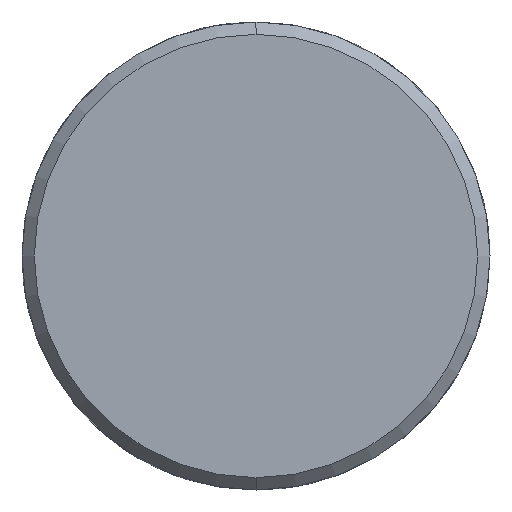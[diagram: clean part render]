
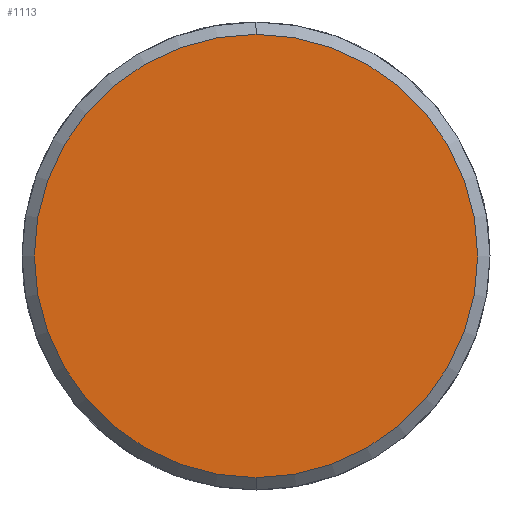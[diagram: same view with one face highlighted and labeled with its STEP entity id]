
A CAD part, left-side view. The second image highlights one B-rep face of the part: STEP entity #1113.
In plain terms, the highlighted planar face has unit normal (-1, 0, 0).
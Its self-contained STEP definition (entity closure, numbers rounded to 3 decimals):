
#1045=CARTESIAN_POINT('Vertex',(-7.,0.,-18.)) ;
#1048=CARTESIAN_POINT('Axis2P3D Location',(-7.,0.,0.)) ;
#1052=CARTESIAN_POINT('Vertex',(-7.,18.,0.)) ;
#1055=CARTESIAN_POINT('Axis2P3D Location',(-7.,0.,0.)) ;
#1059=CARTESIAN_POINT('Vertex',(-7.,0.,18.)) ;
#1081=CARTESIAN_POINT('Axis2P3D Location',(-7.,0.,0.)) ;
#1085=CARTESIAN_POINT('Vertex',(-7.,-18.,0.)) ;
#1088=CARTESIAN_POINT('Axis2P3D Location',(-7.,0.,0.)) ;
#1102=CARTESIAN_POINT('Axis2P3D Location',(-7.,0.,0.)) ;
#1049=DIRECTION('Axis2P3D Direction',(1.,0.,-0.)) ;
#1056=DIRECTION('Axis2P3D Direction',(1.,0.,-0.)) ;
#1082=DIRECTION('Axis2P3D Direction',(1.,0.,-0.)) ;
#1089=DIRECTION('Axis2P3D Direction',(1.,0.,-0.)) ;
#1103=DIRECTION('Axis2P3D Direction',(1.,0.,-0.)) ;
#1104=DIRECTION('Axis2P3D XDirection',(-0.,0.,-1.)) ;
#1050=AXIS2_PLACEMENT_3D('Circle Axis2P3D',#1048,#1049,$) ;
#1057=AXIS2_PLACEMENT_3D('Circle Axis2P3D',#1055,#1056,$) ;
#1083=AXIS2_PLACEMENT_3D('Circle Axis2P3D',#1081,#1082,$) ;
#1090=AXIS2_PLACEMENT_3D('Circle Axis2P3D',#1088,#1089,$) ;
#1105=AXIS2_PLACEMENT_3D('Plane Axis2P3D',#1102,#1103,#1104) ;
#1108=ORIENTED_EDGE('',*,*,#1054,.F.) ;
#1109=ORIENTED_EDGE('',*,*,#1092,.F.) ;
#1110=ORIENTED_EDGE('',*,*,#1087,.F.) ;
#1111=ORIENTED_EDGE('',*,*,#1061,.F.) ;
#1113=ADVANCED_FACE('351-25X26X90',(#1112),#1106,.F.) ;
#1051=CIRCLE('generated circle',#1050,18.) ;
#1058=CIRCLE('generated circle',#1057,18.) ;
#1084=CIRCLE('generated circle',#1083,18.) ;
#1091=CIRCLE('generated circle',#1090,18.) ;
#1054=EDGE_CURVE('',#1046,#1053,#1051,.T.) ;
#1061=EDGE_CURVE('',#1053,#1060,#1058,.T.) ;
#1087=EDGE_CURVE('',#1060,#1086,#1084,.T.) ;
#1092=EDGE_CURVE('',#1086,#1046,#1091,.T.) ;
#1107=EDGE_LOOP('',(#1108,#1109,#1110,#1111)) ;
#1112=FACE_OUTER_BOUND('',#1107,.T.) ;
#1106=PLANE('Plane',#1105) ;
#1046=VERTEX_POINT('',#1045) ;
#1053=VERTEX_POINT('',#1052) ;
#1060=VERTEX_POINT('',#1059) ;
#1086=VERTEX_POINT('',#1085) ;
